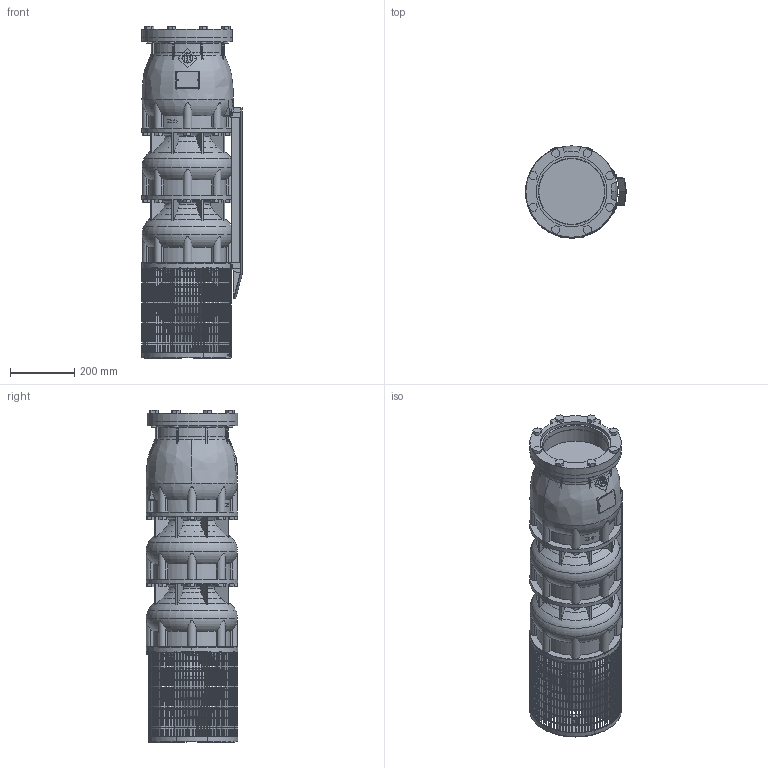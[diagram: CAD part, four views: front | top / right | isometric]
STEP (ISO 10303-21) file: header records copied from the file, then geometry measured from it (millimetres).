
FILE_DESCRIPTION(/* description */ ('-'),/* implementation_level */ '2;1');
FILE_NAME(/* name */ 'VSI344-2_WF_M10-50_DME',/* time_stamp */ '2026-01-21T10:29:38+01:00',/* author */ ('Simonelli M.'),/* organization */ ('Franklin Electric Srl'),/* preprocessor_version */ 'ST-DEVELOPER v18.102',/* originating_system */ 'Solid Edge',/* authorisation */ 'Unknown');
FILE_SCHEMA (('AUTOMOTIVE_DESIGN {1 0 10303 214 3 1 1}'));
Products named in the file (12): VSI344-2_WF_M10-50_DME; VSI344-454_testata; VSI344-454_supporto; VSI344-454_filtro_A; VSI344-454_filtro_B; VSI344-454_terminale_top_copricavo_medio; VSI344-454_terminale_bottom_copricavo_medio; MID 344-2; VSI344_diffusore; M5X8_UNI7687; VSI184-254_giunto_10×10; VSI344-454_flangia_testata
Assembly tree (21 placements, depth 2):
  VSI344-2_WF_M10-50_DME
    VSI344-454_testata
    VSI344-454_supporto
    VSI344-454_filtro_A
    VSI344-454_filtro_B
    VSI344-454_terminale_top_copricavo_medio
    VSI344-454_terminale_bottom_copricavo_medio
    MID 344-2
    VSI344_diffusore  x2
    M5X8_UNI7687  x10
    VSI184-254_giunto_10×10
    VSI344-454_flangia_testata
Bounding box: 314.3 x 286 x 1035 mm (x, y, z)
Volume: 38269195.9 mm3; surface area: 2413552 mm2
Topology: 86 solids, 86 shells, 3997 faces, 11251 edges, 7473 vertices
Faces by surface type: plane 3270, cylinder 450, torus 175, cone 77, bspline 15, sphere 10
Full cylindrical faces by diameter (mm): 5 x10, 16 x8, 35 x1, 65 x1, 69 x1, 150 x1, 207 x1, 220.5 x1, 285 x2
Entity records: 124561 total; most frequent: CARTESIAN_POINT 28072, ORIENTED_EDGE 20264, DIRECTION 19360, EDGE_CURVE 10132, VERTEX_POINT 6757, AXIS2_PLACEMENT_3D 6538, LINE 6284, VECTOR 6284
